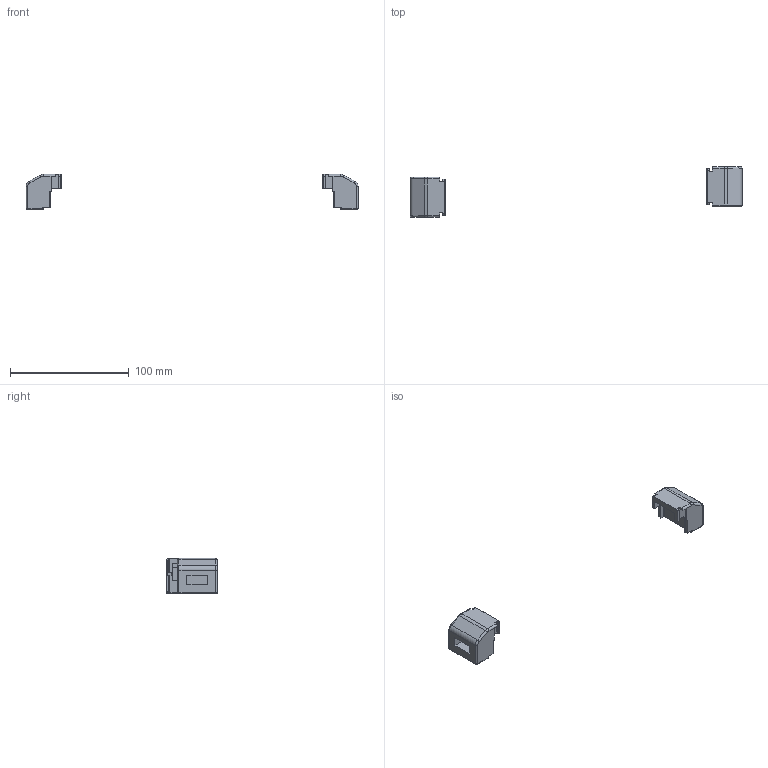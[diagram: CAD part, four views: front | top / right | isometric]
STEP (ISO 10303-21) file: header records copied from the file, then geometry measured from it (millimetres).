
FILE_DESCRIPTION((''),'2;1');
FILE_NAME('15010001_SR-MINI_DMEC-ASSY','2015-12-16T',('emanuel.wild'),(''),'PRO/ENGINEER BY PARAMETRIC TECHNOLOGY CORPORATION, 2015200','PRO/ENGINEER BY PARAMETRIC TECHNOLOGY CORPORATION, 2015200','');
FILE_SCHEMA(('AUTOMOTIVE_DESIGN { 1 0 10303 214 1 1 1 1 }'));
Length unit declared in the file: millimetre
Products named in the file (2): DEWI_SR-MINI_DMEC; 15010001_SR-MINI_DMEC-ASSY
Assembly tree (2 placements, depth 2):
  15010001_SR-MINI_DMEC-ASSY
    DEWI_SR-MINI_DMEC  x2
Bounding box: 280 x 42.6 x 29.8 mm (x, y, z)
Volume: 25339.5 mm3; surface area: 13623 mm2
Topology: 2 solids, 2 shells, 202 faces, 528 edges, 332 vertices
Faces by surface type: plane 120, cylinder 58, torus 16, bspline 4, sphere 4
Entity records: 3792 total; most frequent: CARTESIAN_POINT 570, DIRECTION 538, ORIENTED_EDGE 528, EDGE_CURVE 264, VECTOR 196, LINE 196, AXIS2_PLACEMENT_3D 171, VERTEX_POINT 166
